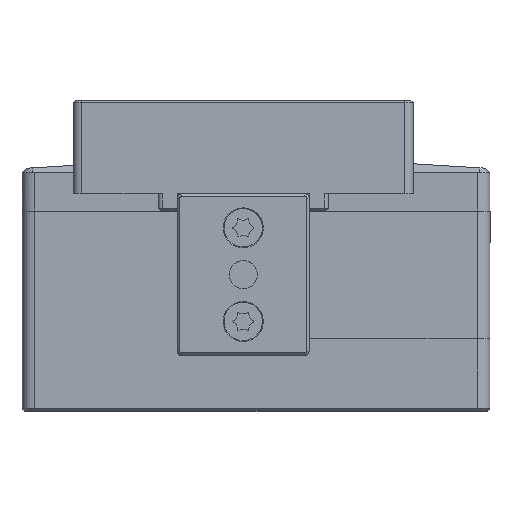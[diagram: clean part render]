
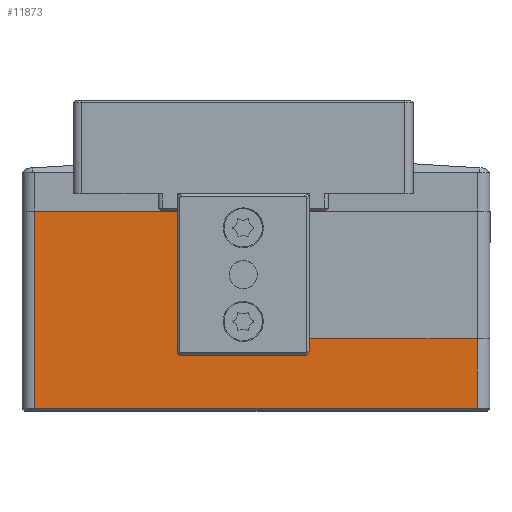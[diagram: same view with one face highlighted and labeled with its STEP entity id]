
A CAD part, top view. The second image highlights one B-rep face of the part: STEP entity #11873.
In plain terms, the highlighted planar face has unit normal (0, 0, 1).
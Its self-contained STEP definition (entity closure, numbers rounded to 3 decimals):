
#75 = VECTOR ( 'NONE', #14175, 1000. ) ;
#330 = LINE ( 'NONE', #25778, #25922 ) ;
#482 = AXIS2_PLACEMENT_3D ( 'NONE', #25786, #10898, #28281 ) ;
#692 = EDGE_CURVE ( 'NONE', #13022, #25345, #1892, .T. ) ;
#741 = EDGE_CURVE ( 'NONE', #26430, #24566, #330, .T. ) ;
#837 = LINE ( 'NONE', #21890, #75 ) ;
#1098 = VECTOR ( 'NONE', #30663, 1000. ) ;
#1892 = LINE ( 'NONE', #15801, #1098 ) ;
#2714 = LINE ( 'NONE', #27801, #28321 ) ;
#2994 = VECTOR ( 'NONE', #14306, 1000. ) ;
#3071 = ORIENTED_EDGE ( 'NONE', *, *, #692, .T. ) ;
#3947 = VERTEX_POINT ( 'NONE', #28864 ) ;
#6028 = DIRECTION ( 'NONE',  ( 1., 0., 0. ) ) ;
#6959 = ORIENTED_EDGE ( 'NONE', *, *, #17759, .F. ) ;
#7157 = EDGE_CURVE ( 'NONE', #19092, #20118, #17366, .T. ) ;
#7905 = EDGE_LOOP ( 'NONE', ( #8150, #21421, #28703, #3071, #6959, #16631, #11934, #27449 ) ) ;
#8150 = ORIENTED_EDGE ( 'NONE', *, *, #741, .F. ) ;
#8629 = VECTOR ( 'NONE', #27050, 1000. ) ;
#9469 = EDGE_CURVE ( 'NONE', #3947, #13022, #2714, .T. ) ;
#9537 = LINE ( 'NONE', #24167, #2994 ) ;
#10751 = VECTOR ( 'NONE', #21591, 1000. ) ;
#10837 = VECTOR ( 'NONE', #14178, 1000. ) ;
#10898 = DIRECTION ( 'NONE',  ( 0., 0., 1. ) ) ;
#11530 = EDGE_CURVE ( 'NONE', #20118, #24566, #9537, .T. ) ;
#11639 = CARTESIAN_POINT ( 'NONE',  ( -26., 23.5, 27.5 ) ) ;
#11689 = CARTESIAN_POINT ( 'NONE',  ( -26., 6.5, 27.5 ) ) ;
#11873 = ADVANCED_FACE ( 'NONE', ( #17653 ), #15812, .T. ) ;
#11934 = ORIENTED_EDGE ( 'NONE', *, *, #7157, .T. ) ;
#12199 = CARTESIAN_POINT ( 'NONE',  ( 3.8, 6.5, 27.5 ) ) ;
#13022 = VERTEX_POINT ( 'NONE', #31987 ) ;
#13776 = EDGE_CURVE ( 'NONE', #26430, #3947, #21837, .T. ) ;
#14175 = DIRECTION ( 'NONE',  ( 1., 0., 0. ) ) ;
#14178 = DIRECTION ( 'NONE',  ( 0., -1., 0. ) ) ;
#14306 = DIRECTION ( 'NONE',  ( 0., 1., 0. ) ) ;
#15801 = CARTESIAN_POINT ( 'NONE',  ( -6.6, 6.5, 27.5 ) ) ;
#15812 = PLANE ( 'NONE',  #482 ) ;
#16631 = ORIENTED_EDGE ( 'NONE', *, *, #28534, .T. ) ;
#17075 = CARTESIAN_POINT ( 'NONE',  ( 26., 0.3, 27.5 ) ) ;
#17366 = LINE ( 'NONE', #31473, #10751 ) ;
#17653 = FACE_OUTER_BOUND ( 'NONE', #7905, .T. ) ;
#17759 = EDGE_CURVE ( 'NONE', #20541, #25345, #837, .T. ) ;
#19092 = VERTEX_POINT ( 'NONE', #29628 ) ;
#20074 = CARTESIAN_POINT ( 'NONE',  ( 26., 8.5, 27.5 ) ) ;
#20118 = VERTEX_POINT ( 'NONE', #17075 ) ;
#20541 = VERTEX_POINT ( 'NONE', #11639 ) ;
#21421 = ORIENTED_EDGE ( 'NONE', *, *, #13776, .T. ) ;
#21591 = DIRECTION ( 'NONE',  ( 1., 0., 0. ) ) ;
#21837 = LINE ( 'NONE', #12199, #8629 ) ;
#21890 = CARTESIAN_POINT ( 'NONE',  ( -6.3, 23.5, 27.5 ) ) ;
#24167 = CARTESIAN_POINT ( 'NONE',  ( 26., 6.5, 27.5 ) ) ;
#24566 = VERTEX_POINT ( 'NONE', #20074 ) ;
#24826 = LINE ( 'NONE', #11689, #10837 ) ;
#25345 = VERTEX_POINT ( 'NONE', #31218 ) ;
#25778 = CARTESIAN_POINT ( 'NONE',  ( 27.5, 8.5, 27.5 ) ) ;
#25786 = CARTESIAN_POINT ( 'NONE',  ( 27.5, 6.5, 27.5 ) ) ;
#25922 = VECTOR ( 'NONE', #6028, 1000. ) ;
#26430 = VERTEX_POINT ( 'NONE', #31984 ) ;
#27050 = DIRECTION ( 'NONE',  ( 0., -1., 0. ) ) ;
#27449 = ORIENTED_EDGE ( 'NONE', *, *, #11530, .T. ) ;
#27801 = CARTESIAN_POINT ( 'NONE',  ( 27.5, 6.5, 27.5 ) ) ;
#28281 = DIRECTION ( 'NONE',  ( 1., 0., 0. ) ) ;
#28321 = VECTOR ( 'NONE', #30172, 1000. ) ;
#28534 = EDGE_CURVE ( 'NONE', #20541, #19092, #24826, .T. ) ;
#28703 = ORIENTED_EDGE ( 'NONE', *, *, #9469, .T. ) ;
#28864 = CARTESIAN_POINT ( 'NONE',  ( 3.8, 6.5, 27.5 ) ) ;
#29628 = CARTESIAN_POINT ( 'NONE',  ( -26., 0.3, 27.5 ) ) ;
#30172 = DIRECTION ( 'NONE',  ( -1., 0., 0. ) ) ;
#30663 = DIRECTION ( 'NONE',  ( 0., 1., 0. ) ) ;
#31218 = CARTESIAN_POINT ( 'NONE',  ( -6.6, 23.5, 27.5 ) ) ;
#31473 = CARTESIAN_POINT ( 'NONE',  ( 27.5, 0.3, 27.5 ) ) ;
#31984 = CARTESIAN_POINT ( 'NONE',  ( 3.8, 8.5, 27.5 ) ) ;
#31987 = CARTESIAN_POINT ( 'NONE',  ( -6.6, 6.5, 27.5 ) ) ;
